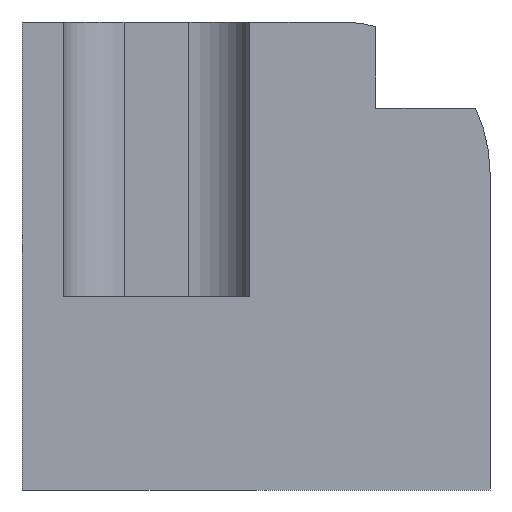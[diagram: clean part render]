
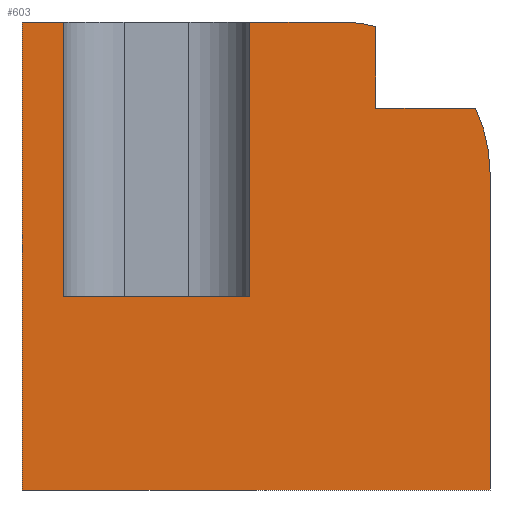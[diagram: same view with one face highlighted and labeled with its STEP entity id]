
A CAD part, left-side view. The second image highlights one B-rep face of the part: STEP entity #603.
In plain terms, the highlighted planar face has unit normal (-1, 0, 0).
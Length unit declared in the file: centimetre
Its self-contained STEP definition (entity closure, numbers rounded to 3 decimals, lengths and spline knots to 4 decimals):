
#8 = CARTESIAN_POINT ( 'NONE',  ( 0., 321.9968, 678.0032 ) ) ;
#9 = CARTESIAN_POINT ( 'NONE',  ( 0., 1000., 413.4919 ) ) ;
#23 = EDGE_LOOP ( 'NONE', ( #685, #142, #275, #196, #473, #574, #294, #637, #194, #425, #345, #198 ) ) ;
#28 = DIRECTION ( 'NONE',  ( 0., -1., 0. ) ) ;
#34 = EDGE_CURVE ( 'NONE', #206, #267, #335, .T. ) ;
#36 = CARTESIAN_POINT ( 'NONE',  ( 0., 244.0785, 815.5398 ) ) ;
#41 = LINE ( 'NONE', #322, #263 ) ;
#49 = EDGE_CURVE ( 'NONE', #490, #564, #51, .T. ) ;
#51 = LINE ( 'NONE', #164, #320 ) ;
#54 = DIRECTION ( 'NONE',  ( 1., 0., 0. ) ) ;
#55 = VECTOR ( 'NONE', #108, 100. ) ;
#69 = CARTESIAN_POINT ( 'NONE',  ( 0., 0., 1000. ) ) ;
#96 = EDGE_CURVE ( 'NONE', #240, #267, #241, .T. ) ;
#102 = CARTESIAN_POINT ( 'NONE',  ( 0., 513.325, 1000. ) ) ;
#108 = DIRECTION ( 'NONE',  ( 0., 1., 0. ) ) ;
#112 = CARTESIAN_POINT ( 'NONE',  ( 0., 321.9968, 1000. ) ) ;
#117 = EDGE_CURVE ( 'NONE', #476, #633, #625, .T. ) ;
#119 = DIRECTION ( 'NONE',  ( 0., 0., -1. ) ) ;
#138 = EDGE_CURVE ( 'NONE', #656, #490, #170, .T. ) ;
#142 = ORIENTED_EDGE ( 'NONE', *, *, #255, .T. ) ;
#150 = CARTESIAN_POINT ( 'NONE',  ( 0., 911.9741, 413.4919 ) ) ;
#164 = CARTESIAN_POINT ( 'NONE',  ( 0., 911.9741, 413.4919 ) ) ;
#165 = CARTESIAN_POINT ( 'NONE',  ( 0., 244.0785, 990.4303 ) ) ;
#166 = DIRECTION ( 'NONE',  ( 0., 0., -1. ) ) ;
#168 = CARTESIAN_POINT ( 'NONE',  ( 0., 244.0785, 815.5398 ) ) ;
#170 = LINE ( 'NONE', #9, #55 ) ;
#172 = DIRECTION ( 'NONE',  ( 0., 0., 1. ) ) ;
#174 = VERTEX_POINT ( 'NONE', #112 ) ;
#194 = ORIENTED_EDGE ( 'NONE', *, *, #660, .T. ) ;
#196 = ORIENTED_EDGE ( 'NONE', *, *, #49, .T. ) ;
#198 = ORIENTED_EDGE ( 'NONE', *, *, #674, .T. ) ;
#199 = DIRECTION ( 'NONE',  ( 0., -1., 0. ) ) ;
#206 = VERTEX_POINT ( 'NONE', #654 ) ;
#211 = CARTESIAN_POINT ( 'NONE',  ( 0., 1000., 1000. ) ) ;
#233 = AXIS2_PLACEMENT_3D ( 'NONE', #491, #659, #234 ) ;
#234 = DIRECTION ( 'NONE',  ( 0., 0., -1. ) ) ;
#235 = CARTESIAN_POINT ( 'NONE',  ( 0., 0., 0. ) ) ;
#240 = VERTEX_POINT ( 'NONE', #338 ) ;
#241 = LINE ( 'NONE', #69, #642 ) ;
#246 = VERTEX_POINT ( 'NONE', #333 ) ;
#255 = EDGE_CURVE ( 'NONE', #590, #656, #282, .T. ) ;
#257 = AXIS2_PLACEMENT_3D ( 'NONE', #8, #620, #119 ) ;
#263 = VECTOR ( 'NONE', #28, 100. ) ;
#267 = VERTEX_POINT ( 'NONE', #235 ) ;
#274 = CIRCLE ( 'NONE', #233, 321.9968 ) ;
#275 = ORIENTED_EDGE ( 'NONE', *, *, #138, .T. ) ;
#276 = CARTESIAN_POINT ( 'NONE',  ( 0., 513.325, 413.4919 ) ) ;
#279 = CARTESIAN_POINT ( 'NONE',  ( 0., 1000., 0. ) ) ;
#281 = DIRECTION ( 'NONE',  ( 0., 0., -1. ) ) ;
#282 = LINE ( 'NONE', #489, #357 ) ;
#284 = CARTESIAN_POINT ( 'NONE',  ( 0., 30.8514, 815.5398 ) ) ;
#289 = DIRECTION ( 'NONE',  ( 0., -1., 0. ) ) ;
#291 = EDGE_CURVE ( 'NONE', #590, #174, #301, .T. ) ;
#294 = ORIENTED_EDGE ( 'NONE', *, *, #34, .T. ) ;
#301 = LINE ( 'NONE', #563, #399 ) ;
#310 = AXIS2_PLACEMENT_3D ( 'NONE', #211, #54, #281 ) ;
#320 = VECTOR ( 'NONE', #562, 100. ) ;
#322 = CARTESIAN_POINT ( 'NONE',  ( 0., 1000., 1000. ) ) ;
#333 = CARTESIAN_POINT ( 'NONE',  ( 0., 1000., 1000. ) ) ;
#335 = LINE ( 'NONE', #279, #693 ) ;
#338 = CARTESIAN_POINT ( 'NONE',  ( 0., 0., 678.0032 ) ) ;
#345 = ORIENTED_EDGE ( 'NONE', *, *, #117, .T. ) ;
#357 = VECTOR ( 'NONE', #166, 100. ) ;
#399 = VECTOR ( 'NONE', #289, 100. ) ;
#421 = CARTESIAN_POINT ( 'NONE',  ( 0., 244.0785, 815.5398 ) ) ;
#425 = ORIENTED_EDGE ( 'NONE', *, *, #475, .F. ) ;
#431 = VECTOR ( 'NONE', #172, 100. ) ;
#437 = LINE ( 'NONE', #664, #703 ) ;
#443 = DIRECTION ( 'NONE',  ( 0., 0., -1. ) ) ;
#473 = ORIENTED_EDGE ( 'NONE', *, *, #494, .F. ) ;
#475 = EDGE_CURVE ( 'NONE', #476, #610, #700, .T. ) ;
#476 = VERTEX_POINT ( 'NONE', #36 ) ;
#489 = CARTESIAN_POINT ( 'NONE',  ( 0., 513.325, 413.4919 ) ) ;
#490 = VERTEX_POINT ( 'NONE', #150 ) ;
#491 = CARTESIAN_POINT ( 'NONE',  ( 0., 321.9968, 678.0032 ) ) ;
#494 = EDGE_CURVE ( 'NONE', #246, #564, #41, .T. ) ;
#497 = DIRECTION ( 'NONE',  ( 0., -1., 0. ) ) ;
#501 = FACE_OUTER_BOUND ( 'NONE', #23, .T. ) ;
#544 = PLANE ( 'NONE',  #310 ) ;
#562 = DIRECTION ( 'NONE',  ( 0., 0., 1. ) ) ;
#563 = CARTESIAN_POINT ( 'NONE',  ( 0., 1000., 1000. ) ) ;
#564 = VERTEX_POINT ( 'NONE', #698 ) ;
#574 = ORIENTED_EDGE ( 'NONE', *, *, #626, .T. ) ;
#590 = VERTEX_POINT ( 'NONE', #102 ) ;
#603 = ADVANCED_FACE ( 'NONE', ( #501 ), #544, .F. ) ;
#610 = VERTEX_POINT ( 'NONE', #284 ) ;
#620 = DIRECTION ( 'NONE',  ( -1., 0., 0. ) ) ;
#625 = LINE ( 'NONE', #168, #431 ) ;
#626 = EDGE_CURVE ( 'NONE', #246, #206, #437, .T. ) ;
#633 = VERTEX_POINT ( 'NONE', #165 ) ;
#637 = ORIENTED_EDGE ( 'NONE', *, *, #96, .F. ) ;
#642 = VECTOR ( 'NONE', #679, 100. ) ;
#652 = CIRCLE ( 'NONE', #257, 321.9968 ) ;
#654 = CARTESIAN_POINT ( 'NONE',  ( 0., 1000., 0. ) ) ;
#656 = VERTEX_POINT ( 'NONE', #276 ) ;
#659 = DIRECTION ( 'NONE',  ( -1., 0., 0. ) ) ;
#660 = EDGE_CURVE ( 'NONE', #240, #610, #652, .T. ) ;
#664 = CARTESIAN_POINT ( 'NONE',  ( 0., 1000., 1000. ) ) ;
#674 = EDGE_CURVE ( 'NONE', #633, #174, #274, .T. ) ;
#679 = DIRECTION ( 'NONE',  ( 0., 0., -1. ) ) ;
#685 = ORIENTED_EDGE ( 'NONE', *, *, #291, .F. ) ;
#693 = VECTOR ( 'NONE', #497, 100. ) ;
#698 = CARTESIAN_POINT ( 'NONE',  ( 0., 911.9741, 1000. ) ) ;
#700 = LINE ( 'NONE', #421, #708 ) ;
#703 = VECTOR ( 'NONE', #443, 100. ) ;
#708 = VECTOR ( 'NONE', #199, 100. ) ;
